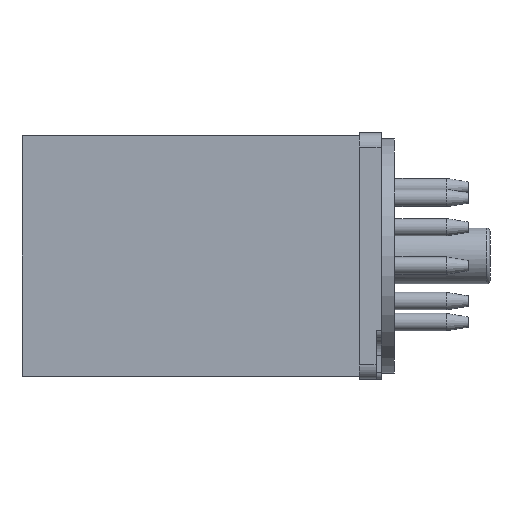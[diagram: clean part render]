
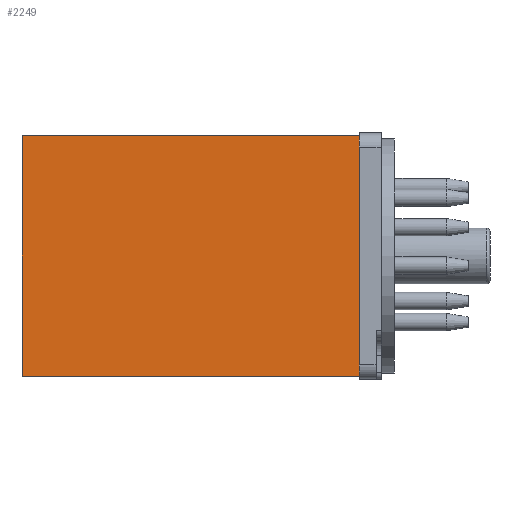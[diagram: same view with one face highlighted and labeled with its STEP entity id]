
A CAD part, left-side view. The second image highlights one B-rep face of the part: STEP entity #2249.
In plain terms, the highlighted planar face has unit normal (-1, 0, 0).
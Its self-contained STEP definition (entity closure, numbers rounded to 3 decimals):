
#144=PLANE('',#2499);
#320=LINE('',#3810,#502);
#321=LINE('',#3812,#503);
#322=LINE('',#3814,#504);
#323=LINE('',#3815,#505);
#502=VECTOR('',#3164,33.2);
#503=VECTOR('',#3165,46.5);
#504=VECTOR('',#3166,33.2);
#505=VECTOR('',#3167,46.5);
#724=FACE_OUTER_BOUND('',#898,.T.);
#898=EDGE_LOOP('',(#2087,#2088,#2089,#2090));
#1224=VERTEX_POINT('',#3808);
#1225=VERTEX_POINT('',#3809);
#1226=VERTEX_POINT('',#3811);
#1227=VERTEX_POINT('',#3813);
#1517=EDGE_CURVE('',#1224,#1225,#320,.T.);
#1518=EDGE_CURVE('',#1225,#1226,#321,.T.);
#1519=EDGE_CURVE('',#1227,#1226,#322,.T.);
#1520=EDGE_CURVE('',#1224,#1227,#323,.T.);
#2087=ORIENTED_EDGE('',*,*,#1517,.T.);
#2088=ORIENTED_EDGE('',*,*,#1518,.T.);
#2089=ORIENTED_EDGE('',*,*,#1519,.F.);
#2090=ORIENTED_EDGE('',*,*,#1520,.F.);
#2249=ADVANCED_FACE('',(#724),#144,.T.);
#2499=AXIS2_PLACEMENT_3D('',#3807,#3162,#3163);
#3162=DIRECTION('center_axis',(-1.,0.,0.));
#3163=DIRECTION('ref_axis',(0.,0.,1.));
#3164=DIRECTION('',(0.,0.,1.));
#3165=DIRECTION('',(0.,1.,0.));
#3166=DIRECTION('',(0.,0.,1.));
#3167=DIRECTION('',(0.,1.,0.));
#3807=CARTESIAN_POINT('Origin',(-16.6,0.,-16.6));
#3808=CARTESIAN_POINT('',(-16.6,0.,-16.6));
#3809=CARTESIAN_POINT('',(-16.6,0.,16.6));
#3810=CARTESIAN_POINT('',(-16.6,0.,-16.6));
#3811=CARTESIAN_POINT('',(-16.6,46.5,16.6));
#3812=CARTESIAN_POINT('',(-16.6,0.,16.6));
#3813=CARTESIAN_POINT('',(-16.6,46.5,-16.6));
#3814=CARTESIAN_POINT('',(-16.6,46.5,-16.6));
#3815=CARTESIAN_POINT('',(-16.6,0.,-16.6));
